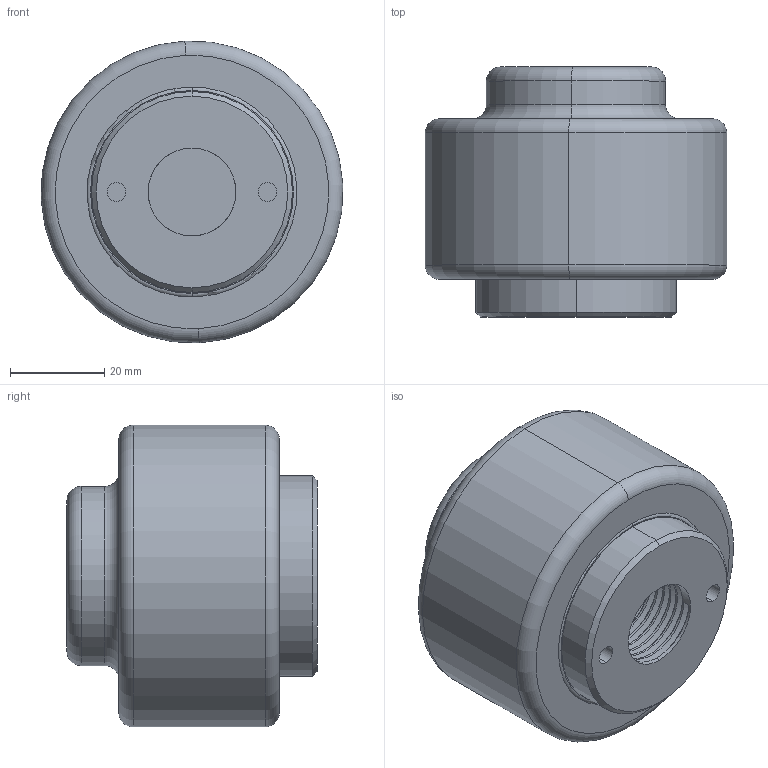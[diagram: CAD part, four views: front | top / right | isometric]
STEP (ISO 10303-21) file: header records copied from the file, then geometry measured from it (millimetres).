
FILE_DESCRIPTION (( 'STEP AP214' ), '1' );
FILE_NAME ('1-2-P601-32.STEP', '2023-10-24T12:11:22', ( '' ), ( '' ), 'SwSTEP 2.0', 'SolidWorks 2023', '' );
FILE_SCHEMA (( 'AUTOMOTIVE_DESIGN' ));
Length unit declared in the file: millimetre
Products named in the file (3): 0.25 inch gauge seal plug - ss; 1-2-P601-32; 0.5 inch gauge seal housing - SS
Assembly tree (2 placements, depth 2):
  1-2-P601-32
    0.25 inch gauge seal plug - ss
    0.5 inch gauge seal housing - SS
Bounding box: 63.93 x 53 x 63.93 mm (x, y, z)
Volume: 122767.1 mm3; surface area: 27096.1 mm2
Topology: 2 solids, 2 shells, 121 faces, 312 edges, 203 vertices
Faces by surface type: cylinder 73, plane 19, bspline 13, torus 10, cone 6
Entity records: 8991 total; most frequent: CARTESIAN_POINT 6366, ORIENTED_EDGE 624, DIRECTION 450, EDGE_CURVE 312, VERTEX_POINT 203, AXIS2_PLACEMENT_3D 181, EDGE_LOOP 129, FACE_OUTER_BOUND 121
